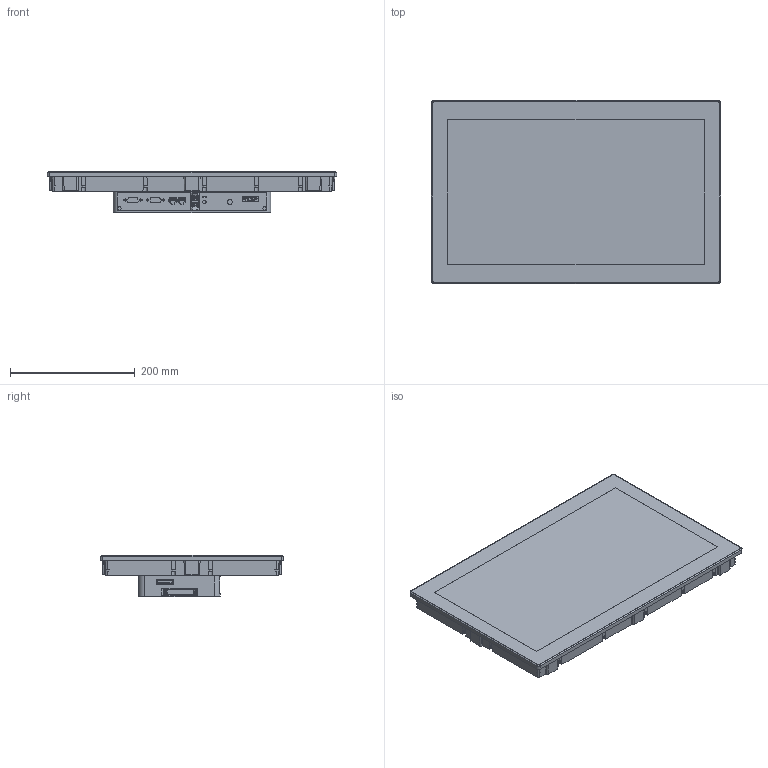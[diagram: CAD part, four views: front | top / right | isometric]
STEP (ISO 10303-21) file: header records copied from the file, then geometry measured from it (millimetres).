
FILE_DESCRIPTION (( 'STEP AP203' ), '1' );
FILE_NAME ('PFXGP6840WCAI_3D_simpl.STEP', '2024-05-29T10:25:09', ( '' ), ( '' ), 'SwSTEP 2.0', 'SolidWorks 2017', '' );
FILE_SCHEMA (( 'CONFIG_CONTROL_DESIGN' ));
Length unit declared in the file: millimetre
Products named in the file (1): PFXGP6840WCAI_3D_simpl
Bounding box: 463.6 x 293.6 x 66.28 mm (x, y, z)
Volume: 5124455.5 mm3; surface area: 398687.2 mm2
Topology: 11 solids, 21 shells, 2701 faces, 7550 edges, 4967 vertices
Faces by surface type: plane 1973, cylinder 530, bspline 127, cone 50, torus 14, sphere 7
Full cylindrical faces by diameter (mm): 2.5 x2, 2.8 x1, 2.845 x4, 3.5 x8, 4 x8, 4.1 x16, 5.6 x31, 7 x4, 8 x9, 8.454 x6
Entity records: 97620 total; most frequent: CARTESIAN_POINT 29934, ORIENTED_EDGE 14806, DIRECTION 12630, EDGE_CURVE 7403, VECTOR 5752, LINE 5752, VERTEX_POINT 4941, AXIS2_PLACEMENT_3D 3439
